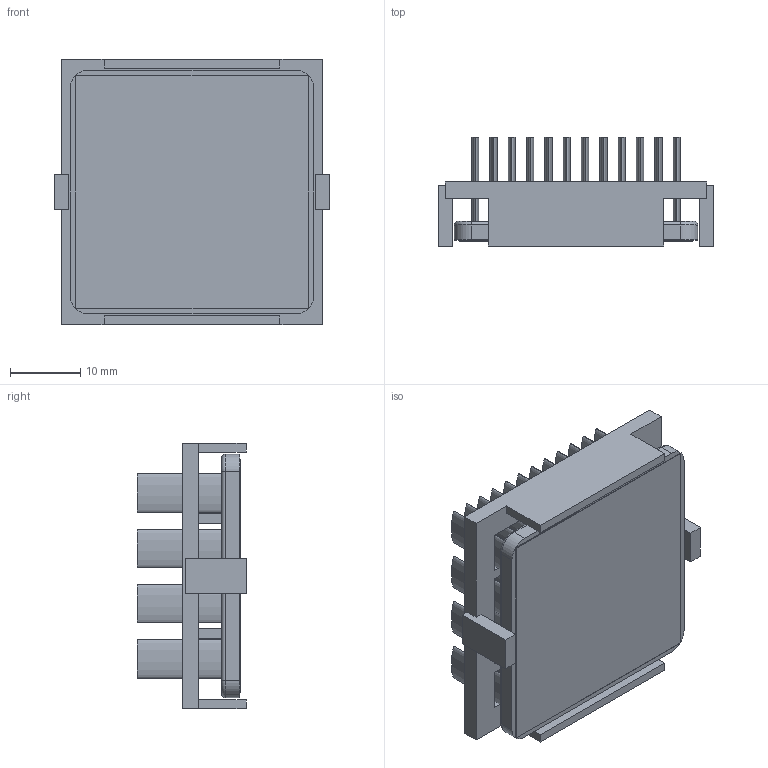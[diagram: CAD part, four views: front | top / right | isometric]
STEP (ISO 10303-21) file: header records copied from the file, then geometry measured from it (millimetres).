
FILE_DESCRIPTION (( 'STEP AP214' ), '1' );
FILE_NAME ('INM35001-15W-2.6O.STEP', '2023-02-20T22:53:30', ( '' ), ( '' ), 'SwSTEP 2.0', 'SolidWorks 2020', '' );
FILE_SCHEMA (( 'AUTOMOTIVE_DESIGN' ));
Length unit declared in the file: inch
Products named in the file (1): INM35001-15W-2.6O
Bounding box: 39.2 x 15.6 x 37.7 mm (x, y, z)
Volume: 7714.4 mm3; surface area: 14315.8 mm2
Topology: 3 solids, 3 shells, 222 faces, 496 edges, 328 vertices
Faces by surface type: plane 114, bspline 96, cylinder 8, torus 4
Entity records: 9276 total; most frequent: CARTESIAN_POINT 2295, ORIENTED_EDGE 992, DIRECTION 578, EDGE_CURVE 496, VERTEX_POINT 328, LINE 284, VECTOR 284, EDGE_LOOP 272
